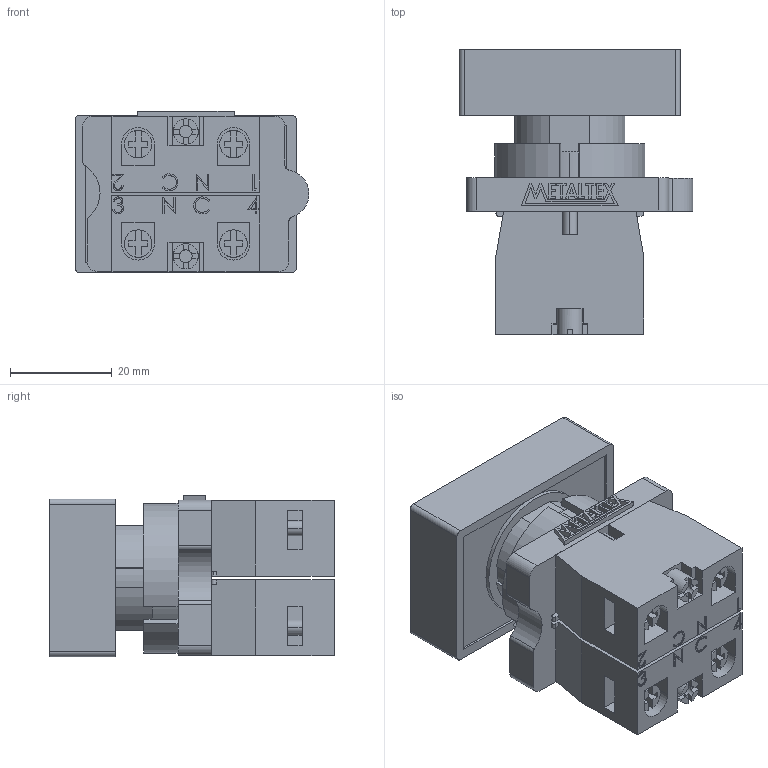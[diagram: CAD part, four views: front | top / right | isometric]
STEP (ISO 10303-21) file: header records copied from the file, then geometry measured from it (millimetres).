
FILE_DESCRIPTION (( 'STEP AP203' ), '1' );
FILE_NAME ('P20BPL-1C.STEP', '2018-01-17T14:01:44', ( '' ), ( '' ), 'SwSTEP 2.0', 'SolidWorks 2012', '' );
FILE_SCHEMA (( 'CONFIG_CONTROL_DESIGN' ));
Length unit declared in the file: millimetre
Products named in the file (5): P20BPL; M20-1B; M20-1A; METALTEX 18,98; P20BPL-1C
Assembly tree (4 placements, depth 2):
  P20BPL-1C
    P20BPL
    M20-1B
    M20-1A
    METALTEX 18,98
Bounding box: 45.94 x 56.1 x 31.75 mm (x, y, z)
Volume: 48708.1 mm3; surface area: 26369.7 mm2
Topology: 11 solids, 11 shells, 565 faces, 1484 edges, 984 vertices
Faces by surface type: plane 416, cylinder 103, bspline 38, torus 8
Entity records: 19965 total; most frequent: CARTESIAN_POINT 5446, ORIENTED_EDGE 2968, DIRECTION 2754, EDGE_CURVE 1484, VECTOR 1130, LINE 1130, VERTEX_POINT 984, AXIS2_PLACEMENT_3D 812
